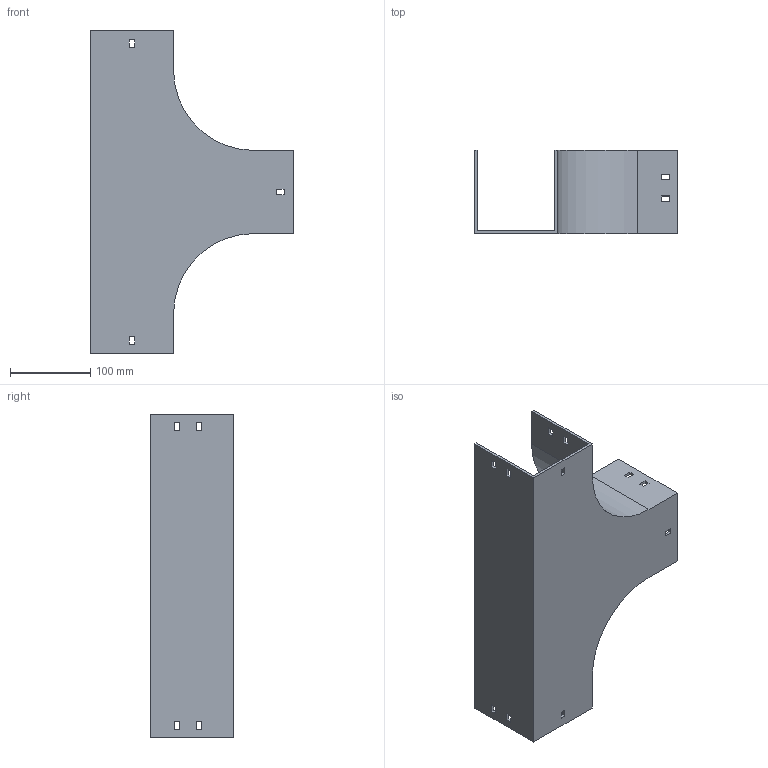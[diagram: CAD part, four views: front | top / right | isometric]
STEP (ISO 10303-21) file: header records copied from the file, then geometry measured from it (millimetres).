
FILE_DESCRIPTION (( 'STEP AP214' ), '1' );
FILE_NAME ('15B1D100.step', '2025-02-21T09:53:07', ( '' ), ( '' ), 'SwSTEP 2.0', 'SolidWorks 2023', '' );
FILE_SCHEMA (( 'AUTOMOTIVE_DESIGN' ));
Length unit declared in the file: millimetre
Products named in the file (1): 15B1D100
Bounding box: 254 x 104 x 404 mm (x, y, z)
Volume: 538020.2 mm3; surface area: 315609.7 mm2
Topology: 1 solids, 1 shells, 82 faces, 240 edges, 160 vertices
Faces by surface type: plane 78, cylinder 4
Entity records: 2755 total; most frequent: CARTESIAN_POINT 483, ORIENTED_EDGE 480, DIRECTION 414, EDGE_CURVE 240, VECTOR 232, LINE 232, VERTEX_POINT 160, EDGE_LOOP 112
